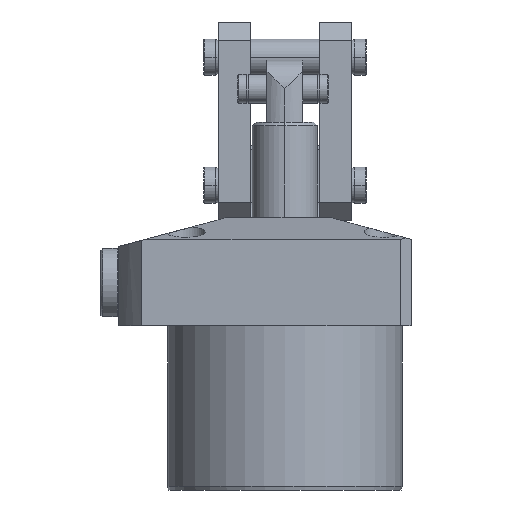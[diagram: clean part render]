
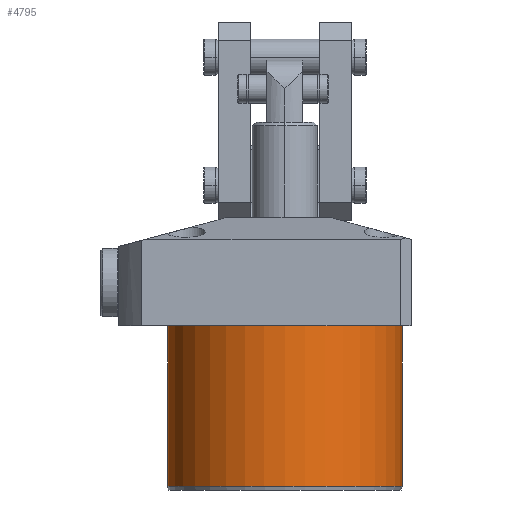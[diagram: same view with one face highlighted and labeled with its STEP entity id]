
A CAD part, front view. The second image highlights one B-rep face of the part: STEP entity #4795.
In plain terms, the highlighted cylindrical face has radius 32.5 mm (diameter 65 mm), a partial arc.
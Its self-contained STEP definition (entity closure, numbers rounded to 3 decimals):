
#96 = DIRECTION ( 'NONE',  ( 0., 0., 1. ) ) ;
#724 = EDGE_CURVE ( 'NONE', #10974, #5365, #16549, .T. ) ;
#964 = LINE ( 'NONE', #14186, #7679 ) ;
#1216 = CARTESIAN_POINT ( 'NONE',  ( 0., 0., 0. ) ) ;
#2549 = DIRECTION ( 'NONE',  ( 1., 0., 0. ) ) ;
#2787 = CARTESIAN_POINT ( 'NONE',  ( 0., 0., -45.5 ) ) ;
#3518 = AXIS2_PLACEMENT_3D ( 'NONE', #2787, #4164, #13525 ) ;
#4164 = DIRECTION ( 'NONE',  ( 0., 0., 1. ) ) ;
#4200 = CIRCLE ( 'NONE', #10409, 32.5 ) ;
#4678 = VECTOR ( 'NONE', #96, 1000. ) ;
#4764 = EDGE_CURVE ( 'NONE', #10974, #7844, #15401, .T. ) ;
#4795 = ADVANCED_FACE ( 'NONE', ( #14979 ), #14553, .T. ) ;
#4891 = CARTESIAN_POINT ( 'NONE',  ( 32.5, 0., 0. ) ) ;
#5365 = VERTEX_POINT ( 'NONE', #7763 ) ;
#5788 = VERTEX_POINT ( 'NONE', #4891 ) ;
#6757 = CARTESIAN_POINT ( 'NONE',  ( 0., 0., -44.5 ) ) ;
#6824 = DIRECTION ( 'NONE',  ( 0., 0., 1. ) ) ;
#6847 = DIRECTION ( 'NONE',  ( -1., 0., 0. ) ) ;
#7383 = AXIS2_PLACEMENT_3D ( 'NONE', #6757, #6824, #6847 ) ;
#7679 = VECTOR ( 'NONE', #15553, 1000. ) ;
#7763 = CARTESIAN_POINT ( 'NONE',  ( 32.5, 0., -44.5 ) ) ;
#7844 = VERTEX_POINT ( 'NONE', #7977 ) ;
#7977 = CARTESIAN_POINT ( 'NONE',  ( -32.5, 0., 0. ) ) ;
#8255 = EDGE_CURVE ( 'NONE', #5788, #7844, #4200, .T. ) ;
#10409 = AXIS2_PLACEMENT_3D ( 'NONE', #1216, #10623, #2549 ) ;
#10623 = DIRECTION ( 'NONE',  ( 0., 0., -1. ) ) ;
#10782 = CARTESIAN_POINT ( 'NONE',  ( -32.5, 0., -45.5 ) ) ;
#10974 = VERTEX_POINT ( 'NONE', #14859 ) ;
#11512 = EDGE_CURVE ( 'NONE', #5365, #5788, #964, .T. ) ;
#12464 = ORIENTED_EDGE ( 'NONE', *, *, #8255, .T. ) ;
#13075 = ORIENTED_EDGE ( 'NONE', *, *, #724, .T. ) ;
#13525 = DIRECTION ( 'NONE',  ( 1., 0., 0. ) ) ;
#14186 = CARTESIAN_POINT ( 'NONE',  ( 32.5, 0., -45.5 ) ) ;
#14320 = EDGE_LOOP ( 'NONE', ( #16156, #13075, #16254, #12464 ) ) ;
#14553 = CYLINDRICAL_SURFACE ( 'NONE', #3518, 32.5 ) ;
#14859 = CARTESIAN_POINT ( 'NONE',  ( -32.5, 0., -44.5 ) ) ;
#14979 = FACE_OUTER_BOUND ( 'NONE', #14320, .T. ) ;
#15401 = LINE ( 'NONE', #10782, #4678 ) ;
#15553 = DIRECTION ( 'NONE',  ( 0., 0., 1. ) ) ;
#16156 = ORIENTED_EDGE ( 'NONE', *, *, #4764, .F. ) ;
#16254 = ORIENTED_EDGE ( 'NONE', *, *, #11512, .T. ) ;
#16549 = CIRCLE ( 'NONE', #7383, 32.5 ) ;
